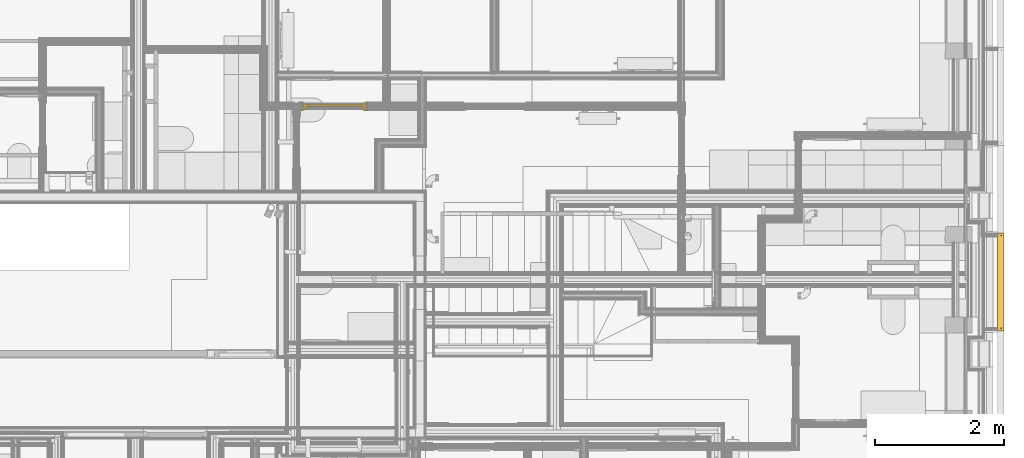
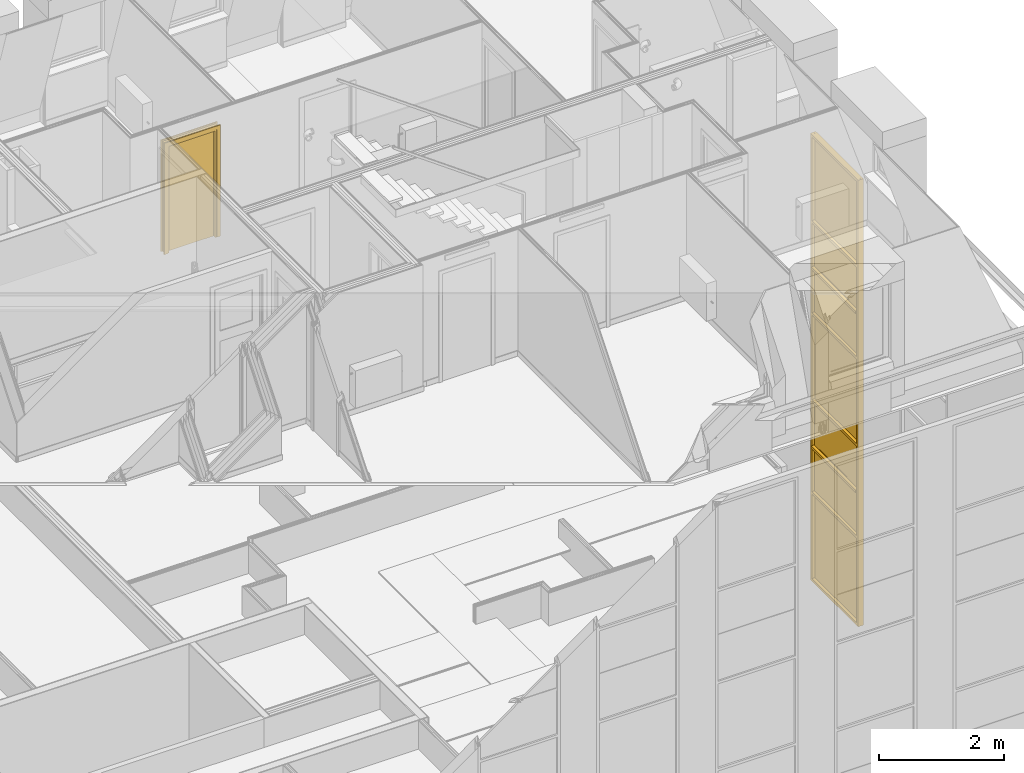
# One storey, part 131 of 169: 1 curtain wall, 1 door.
"""IFC2X3 building model written with IfcOpenShell, lengths in metres."""

from ifc_helpers import new_model, entity, si_unit, converted_unit, derived_unit, money_unit, direction, frame, origin_with_axes, place, context, subcontext, project, spatial, faceted_brep, material, type_object, element, save


model = new_model("IFC2X3")

# Units and contexts
model_context = context("Model", 3, precision=1e-05, world=origin_with_axes(), true_north=direction((0.0, 1.0)))
body_context = subcontext(model_context, "Body", "Model", "MODEL_VIEW", scale=1.0)
ifc_project = project(units=[si_unit("LENGTHUNIT", "METRE"), si_unit("AREAUNIT", "SQUARE_METRE"), si_unit("VOLUMEUNIT", "CUBIC_METRE"), si_unit("ABSORBEDDOSEUNIT", "GRAY"), si_unit("AMOUNTOFSUBSTANCEUNIT", "MOLE"), si_unit("DOSEEQUIVALENTUNIT", "SIEVERT"), si_unit("ELECTRICCAPACITANCEUNIT", "FARAD"), si_unit("ELECTRICCHARGEUNIT", "COULOMB"), si_unit("ELECTRICCONDUCTANCEUNIT", "SIEMENS"), si_unit("ELECTRICCURRENTUNIT", "AMPERE"), si_unit("ELECTRICRESISTANCEUNIT", "OHM"), si_unit("ELECTRICVOLTAGEUNIT", "VOLT"), si_unit("ENERGYUNIT", "JOULE"), si_unit("FORCEUNIT", "NEWTON"), si_unit("FREQUENCYUNIT", "HERTZ"), si_unit("ILLUMINANCEUNIT", "LUX"), si_unit("INDUCTANCEUNIT", "HENRY"), si_unit("LUMINOUSFLUXUNIT", "LUMEN"), si_unit("LUMINOUSINTENSITYUNIT", "CANDELA"), si_unit("MAGNETICFLUXDENSITYUNIT", "TESLA"), si_unit("MAGNETICFLUXUNIT", "WEBER"), si_unit("MASSUNIT", "GRAM"), converted_unit("PLANEANGLEUNIT", "degree", entity("IfcReal", 0.0174532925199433), si_unit("PLANEANGLEUNIT", "RADIAN"), dimensions=[0, 0, 0, 0, 0, 0, 0]), si_unit("POWERUNIT", "WATT"), si_unit("PRESSUREUNIT", "PASCAL"), si_unit("RADIOACTIVITYUNIT", "BECQUEREL"), si_unit("SOLIDANGLEUNIT", "STERADIAN"), si_unit("THERMODYNAMICTEMPERATUREUNIT", "KELVIN"), si_unit("TIMEUNIT", "SECOND"), derived_unit("ACCELERATIONUNIT", [(si_unit("LENGTHUNIT", "METRE"), 1), (si_unit("TIMEUNIT", "SECOND"), -2)]), derived_unit("ANGULARVELOCITYUNIT", [(converted_unit("PLANEANGLEUNIT", "degree", entity("IfcReal", 0.0174532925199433), si_unit("PLANEANGLEUNIT", "RADIAN"), dimensions=[0, 0, 0, 0, 0, 0, 0]), 1), (si_unit("TIMEUNIT", "SECOND"), -1)]), derived_unit("CURVATUREUNIT", [(converted_unit("PLANEANGLEUNIT", "degree", entity("IfcReal", 0.0174532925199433), si_unit("PLANEANGLEUNIT", "RADIAN"), dimensions=[0, 0, 0, 0, 0, 0, 0]), 1), (si_unit("LENGTHUNIT", "METRE"), -1)]), derived_unit("DYNAMICVISCOSITYUNIT", [(si_unit("PRESSUREUNIT", "PASCAL"), 1), (si_unit("TIMEUNIT", "SECOND"), 1)]), derived_unit("HEATFLUXDENSITYUNIT", [(si_unit("POWERUNIT", "WATT"), 1), (si_unit("LENGTHUNIT", "METRE"), -2)]), derived_unit("HEATINGVALUEUNIT", [(si_unit("ENERGYUNIT", "JOULE"), 1), (si_unit("MASSUNIT", "GRAM"), -1)]), derived_unit("INTEGERCOUNTRATEUNIT", [(si_unit("TIMEUNIT", "SECOND"), -1)]), derived_unit("IONCONCENTRATIONUNIT", [(si_unit("MASSUNIT", "GRAM"), 1), (si_unit("VOLUMEUNIT", "CUBIC_METRE"), -1)]), derived_unit("ISOTHERMALMOISTURECAPACITYUNIT", [(si_unit("VOLUMEUNIT", "CUBIC_METRE"), 1), (si_unit("MASSUNIT", "GRAM"), -1)]), derived_unit("KINEMATICVISCOSITYUNIT", [(si_unit("AREAUNIT", "SQUARE_METRE"), 1), (si_unit("TIMEUNIT", "SECOND"), -1)]), derived_unit("LINEARFORCEUNIT", [(si_unit("FORCEUNIT", "NEWTON"), 1), (si_unit("LENGTHUNIT", "METRE"), -1)]), derived_unit("LINEARMOMENTUNIT", [(si_unit("FORCEUNIT", "NEWTON"), 1), (si_unit("LENGTHUNIT", "METRE"), -1)]), derived_unit("LINEARSTIFFNESSUNIT", [(si_unit("FORCEUNIT", "NEWTON"), 1), (si_unit("LENGTHUNIT", "METRE"), -1)]), derived_unit("LINEARVELOCITYUNIT", [(si_unit("LENGTHUNIT", "METRE"), 1), (si_unit("TIMEUNIT", "SECOND"), -1)]), derived_unit("LUMINOUSINTENSITYDISTRIBUTIONUNIT", [(si_unit("LUMINOUSINTENSITYUNIT", "CANDELA"), 1), (si_unit("LUMINOUSFLUXUNIT", "LUMEN"), -1)]), derived_unit("MASSDENSITYUNIT", [(si_unit("MASSUNIT", "GRAM"), 1), (si_unit("VOLUMEUNIT", "CUBIC_METRE"), -1)]), derived_unit("MASSFLOWRATEUNIT", [(si_unit("MASSUNIT", "GRAM"), 1), (si_unit("TIMEUNIT", "SECOND"), -1)]), derived_unit("MASSPERLENGTHUNIT", [(si_unit("MASSUNIT", "GRAM"), 1), (si_unit("LENGTHUNIT", "METRE"), -1)]), derived_unit("MODULUSOFELASTICITYUNIT", [(si_unit("FORCEUNIT", "NEWTON"), 1), (si_unit("AREAUNIT", "SQUARE_METRE"), -1)]), derived_unit("MODULUSOFLINEARSUBGRADEREACTIONUNIT", [(si_unit("FORCEUNIT", "NEWTON"), 1), (si_unit("LENGTHUNIT", "METRE"), -2)]), derived_unit("MODULUSOFROTATIONALSUBGRADEREACTIONUNIT", [(si_unit("FORCEUNIT", "NEWTON"), 1), (si_unit("LENGTHUNIT", "METRE"), 1)]), derived_unit("MODULUSOFSUBGRADEREACTIONUNIT", [(si_unit("FORCEUNIT", "NEWTON"), 1), (si_unit("VOLUMEUNIT", "CUBIC_METRE"), -1)]), derived_unit("MOISTUREDIFFUSIVITYUNIT", [(si_unit("VOLUMEUNIT", "CUBIC_METRE"), 1), (si_unit("TIMEUNIT", "SECOND"), -1)]), derived_unit("MOLECULARWEIGHTUNIT", [(si_unit("MASSUNIT", "GRAM"), 1), (si_unit("AMOUNTOFSUBSTANCEUNIT", "MOLE"), -1)]), derived_unit("PLANARFORCEUNIT", [(si_unit("FORCEUNIT", "NEWTON"), 1), (si_unit("LENGTHUNIT", "METRE"), -2)]), derived_unit("ROTATIONALFREQUENCYUNIT", [(si_unit("TIMEUNIT", "SECOND"), -1)]), derived_unit("ROTATIONALMASSUNIT", [(si_unit("MASSUNIT", "GRAM"), 1), (si_unit("LENGTHUNIT", "METRE"), 2)]), derived_unit("ROTATIONALSTIFFNESSUNIT", [(si_unit("FORCEUNIT", "NEWTON"), 1), (si_unit("LENGTHUNIT", "METRE"), 1), (converted_unit("PLANEANGLEUNIT", "degree", entity("IfcReal", 0.0174532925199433), si_unit("PLANEANGLEUNIT", "RADIAN"), dimensions=[0, 0, 0, 0, 0, 0, 0]), -1)]), derived_unit("SECTIONAREAINTEGRALUNIT", [(si_unit("LENGTHUNIT", "METRE"), 5)]), derived_unit("SECTIONMODULUSUNIT", [(si_unit("LENGTHUNIT", "METRE"), 3)]), derived_unit("SHEARMODULUSUNIT", [(si_unit("FORCEUNIT", "NEWTON"), 1), (si_unit("AREAUNIT", "SQUARE_METRE"), -1)]), derived_unit("SOUNDPOWERUNIT", [(si_unit("ENERGYUNIT", "JOULE"), 1), (si_unit("TIMEUNIT", "SECOND"), -1)]), derived_unit("SPECIFICHEATCAPACITYUNIT", [(si_unit("FORCEUNIT", "NEWTON"), 1), (si_unit("MASSUNIT", "GRAM"), -1), (si_unit("THERMODYNAMICTEMPERATUREUNIT", "KELVIN"), -1)]), derived_unit("TEMPERATUREGRADIENTUNIT", [(si_unit("THERMODYNAMICTEMPERATUREUNIT", "KELVIN"), 1), (si_unit("LENGTHUNIT", "METRE"), -1)]), derived_unit("THERMALADMITTANCEUNIT", [(si_unit("POWERUNIT", "WATT"), 1), (si_unit("AREAUNIT", "SQUARE_METRE"), -1), (si_unit("THERMODYNAMICTEMPERATUREUNIT", "KELVIN"), -1)]), derived_unit("THERMALCONDUCTANCEUNIT", [(si_unit("POWERUNIT", "WATT"), 1), (si_unit("LENGTHUNIT", "METRE"), -1), (si_unit("THERMODYNAMICTEMPERATUREUNIT", "KELVIN"), -1)]), derived_unit("THERMALEXPANSIONCOEFFICIENTUNIT", [(si_unit("THERMODYNAMICTEMPERATUREUNIT", "KELVIN"), -1)]), derived_unit("THERMALRESISTANCEUNIT", [(si_unit("AREAUNIT", "SQUARE_METRE"), 1), (si_unit("POWERUNIT", "WATT"), -1)]), derived_unit("THERMALTRANSMITTANCEUNIT", [(si_unit("POWERUNIT", "WATT"), 1), (si_unit("AREAUNIT", "SQUARE_METRE"), -1), (si_unit("THERMODYNAMICTEMPERATUREUNIT", "KELVIN"), -1)]), derived_unit("TORQUEUNIT", [(si_unit("FORCEUNIT", "NEWTON"), 1), (si_unit("LENGTHUNIT", "METRE"), 1)]), derived_unit("VAPORPERMEABILITYUNIT", [(si_unit("MASSUNIT", "GRAM"), 1), (si_unit("TIMEUNIT", "SECOND"), -1)]), derived_unit("VOLUMETRICFLOWRATEUNIT", [(si_unit("VOLUMEUNIT", "CUBIC_METRE"), 1), (si_unit("TIMEUNIT", "SECOND"), -1)]), derived_unit("WARPINGCONSTANTUNIT", [(si_unit("LENGTHUNIT", "METRE"), 6)]), derived_unit("WARPINGMOMENTUNIT", [(si_unit("FORCEUNIT", "NEWTON"), 1), (si_unit("LENGTHUNIT", "METRE"), 2)]), money_unit("GBP")], contexts=[model_context])

# Site, building, storey
site_placement = place(None, origin_with_axes())
site = spatial("IfcSite", under=ifc_project, at=site_placement, Name="Site", CompositionType="ELEMENT")
building_placement = place(site_placement, origin_with_axes())
building = spatial("IfcBuilding", under=site, at=building_placement, Name="Building01", CompositionType="ELEMENT")
storey_placement = place(building_placement, frame((0.0, 0.0, 5.15), z_axis=(0.0, 0.0, 1.0), x_axis=(1.0, 0.0, 0.0)))
storey = spatial("IfcBuildingStorey", under=building, at=storey_placement, Name="1F", CompositionType="ELEMENT", Elevation=5.15)

# Curtain wall
ifc_material_1 = material(Name="A-CurtainWall_Frame")
curtain_wall_type = type_object("IfcCurtainWallType", Name="Pattern - Maximum Spacing", PredefinedType="NOTDEFINED")
curtain_wall_placement = place(storey_placement, frame((0.0, 0.0, -5.15), z_axis=(0.0, 0.0, 1.0), x_axis=(1.0, 0.0, 0.0)))
element("IfcCurtainWall", 1, at=curtain_wall_placement, inside=storey, type_object=curtain_wall_type, material=ifc_material_1, Name="29", ObjectType="Pattern - Maximum Spacing", context=body_context, shape_type="Brep", body=[
    faceted_brep([(26.935, 6.687326, 6.050108), (26.945, 6.687326, 6.050108), (26.945, 6.687326, 7.734233), (26.935, 6.687326, 7.734233), (26.935, 8.147326, 6.050108), (26.945, 8.147326, 6.050108), (26.935, 8.147326, 7.734233), (26.945, 8.147326, 7.734233)], [[[0, 1, 2, 3]], [[4, 5, 1, 0]], [[6, 7, 5, 4]], [[3, 2, 7, 6]], [[1, 5, 7, 2]], [[3, 6, 4, 0]]]),
    faceted_brep([(26.935, 6.687326, 6.020108), (26.945, 6.687326, 6.020108), (26.945, 6.707326, 6.020108), (26.98, 6.707326, 6.020108), (26.98, 6.657326, 6.020108), (26.88, 6.657326, 6.020108), (26.88, 6.707326, 6.020108), (26.935, 6.707326, 6.020108), (26.935, 6.707326, 7.739233), (26.935, 6.687326, 7.739233), (26.945, 6.687326, 7.739233), (26.945, 6.707326, 7.739233), (26.98, 6.707326, 7.739233), (26.98, 6.657326, 7.739233), (26.88, 6.657326, 7.739233), (26.88, 6.707326, 7.739233)], [[[0, 1, 2, 3, 4, 5, 6, 7]], [[7, 8, 9, 0]], [[0, 9, 10, 1]], [[1, 10, 11, 2]], [[2, 11, 12, 3]], [[3, 12, 13, 4]], [[4, 13, 14, 5]], [[5, 14, 15, 6]], [[6, 15, 8, 7]]]),
    faceted_brep([(26.935, 8.127326, 6.050108), (26.945, 8.127326, 6.050108), (26.945, 8.127326, 6.070108), (26.98, 8.127326, 6.070108), (26.98, 8.127326, 6.020108), (26.88, 8.127326, 6.020108), (26.88, 8.127326, 6.070108), (26.935, 8.127326, 6.070108), (26.935, 6.707326, 6.070108), (26.935, 6.707326, 6.050108), (26.945, 6.707326, 6.050108), (26.945, 6.707326, 6.070108), (26.98, 6.707326, 6.070108), (26.98, 6.707326, 6.020108), (26.88, 6.707326, 6.020108), (26.88, 6.707326, 6.070108)], [[[0, 1, 2, 3, 4, 5, 6, 7]], [[7, 8, 9, 0]], [[0, 9, 10, 1]], [[1, 10, 11, 2]], [[2, 11, 12, 3]], [[3, 12, 13, 4]], [[4, 13, 14, 5]], [[5, 14, 15, 6]], [[6, 15, 8, 7]], [[8, 15, 14, 13, 12, 11, 10, 9]]]),
    faceted_brep([(26.88, 8.127326, 6.020108), (26.88, 8.127326, 7.739233), (26.88, 8.177326, 7.739233), (26.88, 8.177326, 6.020108), (26.935, 8.127326, 6.020108), (26.935, 8.127326, 7.739233), (26.935, 8.147326, 6.020108), (26.935, 8.147326, 7.739233), (26.945, 8.147326, 6.020108), (26.945, 8.147326, 7.739233), (26.945, 8.127326, 6.020108), (26.945, 8.127326, 7.739233), (26.98, 8.127326, 6.020108), (26.98, 8.127326, 7.739233), (26.98, 8.177326, 6.020108), (26.98, 8.177326, 7.739233)], [[[0, 1, 2, 3]], [[4, 5, 1, 0]], [[6, 7, 5, 4]], [[8, 9, 7, 6]], [[10, 11, 9, 8]], [[12, 13, 11, 10]], [[14, 15, 13, 12]], [[3, 2, 15, 14]], [[14, 12, 10, 8, 6, 4, 0, 3]]]),
    faceted_brep([(26.935, 6.707326, 7.734233), (26.945, 6.707326, 7.734233), (26.945, 6.707326, 7.714233), (26.98, 6.707326, 7.714233), (26.98, 6.707326, 7.764233), (26.945, 6.707326, 7.764233), (26.945, 6.707326, 7.744233), (26.935, 6.707326, 7.744233), (26.935, 6.707326, 7.764233), (26.88, 6.707326, 7.764233), (26.88, 6.707326, 7.714233), (26.935, 6.707326, 7.714233), (26.935, 8.127326, 7.714233), (26.935, 8.127326, 7.734233), (26.945, 8.127326, 7.734233), (26.945, 8.127326, 7.714233), (26.98, 8.127326, 7.714233), (26.98, 8.127326, 7.764233), (26.945, 8.127326, 7.764233), (26.935, 8.127326, 7.744233), (26.935, 8.127326, 7.764233), (26.945, 8.127326, 7.744233), (26.88, 8.127326, 7.714233), (26.88, 8.127326, 7.764233)], [[[0, 1, 2, 3, 4, 5, 6, 7, 8, 9, 10, 11]], [[11, 12, 13, 0]], [[0, 13, 14, 1]], [[1, 14, 15, 2]], [[2, 15, 16, 3]], [[3, 16, 17, 4]], [[4, 17, 18, 5]], [[7, 19, 20, 8]], [[6, 21, 19, 7]], [[5, 18, 21, 6]], [[10, 22, 12, 11]], [[9, 23, 22, 10]], [[8, 20, 23, 9]], [[20, 19, 21, 18, 17, 16, 15, 14, 13, 12, 22, 23]]]),
    faceted_brep([(26.93, 6.687326, 7.744233), (26.95, 6.687326, 7.744233), (26.95, 6.687326, 8.631122), (26.93, 6.687326, 8.631122), (26.93, 8.147326, 7.744233), (26.95, 8.147326, 7.744233), (26.93, 8.147326, 8.631122), (26.95, 8.147326, 8.631122)], [[[0, 1, 2, 3]], [[4, 5, 1, 0]], [[6, 7, 5, 4]], [[3, 2, 7, 6]], [[1, 5, 7, 2]], [[3, 6, 4, 0]]]),
    faceted_brep([(26.88, 6.707326, 8.636122), (26.88, 6.707326, 7.739233), (26.88, 6.657326, 7.739233), (26.88, 6.657326, 8.636122), (26.935, 6.707326, 8.636122), (26.935, 6.707326, 7.739233), (26.935, 6.687326, 8.636122), (26.935, 6.687326, 7.739233), (26.945, 6.687326, 8.636122), (26.945, 6.687326, 7.739233), (26.945, 6.707326, 8.636122), (26.945, 6.707326, 7.739233), (26.98, 6.707326, 8.636122), (26.98, 6.707326, 7.739233), (26.98, 6.657326, 8.636122), (26.98, 6.657326, 7.739233)], [[[0, 1, 2, 3]], [[4, 5, 1, 0]], [[6, 7, 5, 4]], [[8, 9, 7, 6]], [[10, 11, 9, 8]], [[12, 13, 11, 10]], [[14, 15, 13, 12]], [[3, 2, 15, 14]]]),
    faceted_brep([(26.88, 8.127326, 7.739233), (26.88, 8.127326, 8.636122), (26.88, 8.177326, 8.636122), (26.88, 8.177326, 7.739233), (26.935, 8.127326, 7.739233), (26.935, 8.127326, 8.636122), (26.935, 8.147326, 7.739233), (26.935, 8.147326, 8.636122), (26.945, 8.147326, 7.739233), (26.945, 8.147326, 8.636122), (26.945, 8.127326, 7.739233), (26.945, 8.127326, 8.636122), (26.98, 8.127326, 7.739233), (26.98, 8.127326, 8.636122), (26.98, 8.177326, 7.739233), (26.98, 8.177326, 8.636122)], [[[0, 1, 2, 3]], [[4, 5, 1, 0]], [[6, 7, 5, 4]], [[8, 9, 7, 6]], [[10, 11, 9, 8]], [[12, 13, 11, 10]], [[14, 15, 13, 12]], [[3, 2, 15, 14]]]),
    faceted_brep([(26.9175, 6.707326, 8.631122), (26.9275, 6.707326, 8.631122), (26.9275, 6.707326, 8.611122), (26.9625, 6.707326, 8.611122), (26.9625, 6.707326, 8.661122), (26.9275, 6.707326, 8.661122), (26.9275, 6.707326, 8.641122), (26.9175, 6.707326, 8.641122), (26.9175, 6.707326, 8.661122), (26.8625, 6.707326, 8.661122), (26.8625, 6.707326, 8.611122), (26.9175, 6.707326, 8.611122), (26.9175, 8.127326, 8.611122), (26.9175, 8.127326, 8.631122), (26.9275, 8.127326, 8.631122), (26.9275, 8.127326, 8.611122), (26.9625, 8.127326, 8.611122), (26.9625, 8.127326, 8.661122), (26.9275, 8.127326, 8.661122), (26.9175, 8.127326, 8.641122), (26.9175, 8.127326, 8.661122), (26.9275, 8.127326, 8.641122), (26.8625, 8.127326, 8.611122), (26.8625, 8.127326, 8.661122)], [[[0, 1, 2, 3, 4, 5, 6, 7, 8, 9, 10, 11]], [[11, 12, 13, 0]], [[0, 13, 14, 1]], [[1, 14, 15, 2]], [[2, 15, 16, 3]], [[3, 16, 17, 4]], [[4, 17, 18, 5]], [[7, 19, 20, 8]], [[6, 21, 19, 7]], [[5, 18, 21, 6]], [[10, 22, 12, 11]], [[9, 23, 22, 10]], [[8, 20, 23, 9]], [[20, 19, 21, 18, 17, 16, 15, 14, 13, 12, 22, 23]]]),
    faceted_brep([(26.93, 6.687326, 8.641122), (26.95, 6.687326, 8.641122), (26.95, 6.687326, 9.528011), (26.93, 6.687326, 9.528011), (26.93, 8.147326, 8.641122), (26.95, 8.147326, 8.641122), (26.93, 8.147326, 9.528011), (26.95, 8.147326, 9.528011)], [[[0, 1, 2, 3]], [[4, 5, 1, 0]], [[6, 7, 5, 4]], [[3, 2, 7, 6]], [[1, 5, 7, 2]], [[3, 6, 4, 0]]]),
    faceted_brep([(26.88, 6.707326, 9.533011), (26.88, 6.707326, 8.636122), (26.88, 6.657326, 8.636122), (26.88, 6.657326, 9.533011), (26.935, 6.707326, 9.533011), (26.935, 6.707326, 8.636122), (26.935, 6.687326, 9.533011), (26.935, 6.687326, 8.636122), (26.945, 6.687326, 9.533011), (26.945, 6.687326, 8.636122), (26.945, 6.707326, 9.533011), (26.945, 6.707326, 8.636122), (26.98, 6.707326, 9.533011), (26.98, 6.707326, 8.636122), (26.98, 6.657326, 9.533011), (26.98, 6.657326, 8.636122)], [[[0, 1, 2, 3]], [[4, 5, 1, 0]], [[6, 7, 5, 4]], [[8, 9, 7, 6]], [[10, 11, 9, 8]], [[12, 13, 11, 10]], [[14, 15, 13, 12]], [[3, 2, 15, 14]]]),
    faceted_brep([(26.88, 8.127326, 8.636122), (26.88, 8.127326, 9.533011), (26.88, 8.177326, 9.533011), (26.88, 8.177326, 8.636122), (26.935, 8.127326, 8.636122), (26.935, 8.127326, 9.533011), (26.935, 8.147326, 8.636122), (26.935, 8.147326, 9.533011), (26.945, 8.147326, 8.636122), (26.945, 8.147326, 9.533011), (26.945, 8.127326, 8.636122), (26.945, 8.127326, 9.533011), (26.98, 8.127326, 8.636122), (26.98, 8.127326, 9.533011), (26.98, 8.177326, 8.636122), (26.98, 8.177326, 9.533011)], [[[0, 1, 2, 3]], [[4, 5, 1, 0]], [[6, 7, 5, 4]], [[8, 9, 7, 6]], [[10, 11, 9, 8]], [[12, 13, 11, 10]], [[14, 15, 13, 12]], [[3, 2, 15, 14]]]),
    faceted_brep([(26.935, 6.707326, 9.528011), (26.945, 6.707326, 9.528011), (26.945, 6.707326, 9.508011), (26.98, 6.707326, 9.508011), (26.98, 6.707326, 9.558011), (26.945, 6.707326, 9.558011), (26.945, 6.707326, 9.538011), (26.935, 6.707326, 9.538011), (26.935, 6.707326, 9.558011), (26.88, 6.707326, 9.558011), (26.88, 6.707326, 9.508011), (26.935, 6.707326, 9.508011), (26.935, 8.127326, 9.508011), (26.935, 8.127326, 9.528011), (26.945, 8.127326, 9.528011), (26.945, 8.127326, 9.508011), (26.98, 8.127326, 9.508011), (26.98, 8.127326, 9.558011), (26.945, 8.127326, 9.558011), (26.935, 8.127326, 9.538011), (26.935, 8.127326, 9.558011), (26.945, 8.127326, 9.538011), (26.88, 8.127326, 9.508011), (26.88, 8.127326, 9.558011)], [[[0, 1, 2, 3, 4, 5, 6, 7, 8, 9, 10, 11]], [[11, 12, 13, 0]], [[0, 13, 14, 1]], [[1, 14, 15, 2]], [[2, 15, 16, 3]], [[3, 16, 17, 4]], [[4, 17, 18, 5]], [[7, 19, 20, 8]], [[6, 21, 19, 7]], [[5, 18, 21, 6]], [[10, 22, 12, 11]], [[9, 23, 22, 10]], [[8, 20, 23, 9]], [[20, 19, 21, 18, 17, 16, 15, 14, 13, 12, 22, 23]]]),
    faceted_brep([(26.935, 6.687326, 9.538011), (26.945, 6.687326, 9.538011), (26.945, 6.687326, 11.222136), (26.935, 6.687326, 11.222136), (26.935, 8.147326, 9.538011), (26.945, 8.147326, 9.538011), (26.935, 8.147326, 11.222136), (26.945, 8.147326, 11.222136)], [[[0, 1, 2, 3]], [[4, 5, 1, 0]], [[6, 7, 5, 4]], [[3, 2, 7, 6]], [[1, 5, 7, 2]], [[3, 6, 4, 0]]]),
    faceted_brep([(26.88, 6.707326, 11.227136), (26.88, 6.707326, 9.533011), (26.88, 6.657326, 9.533011), (26.88, 6.657326, 11.227136), (26.935, 6.707326, 11.227136), (26.935, 6.707326, 9.533011), (26.935, 6.687326, 11.227136), (26.935, 6.687326, 9.533011), (26.945, 6.687326, 11.227136), (26.945, 6.687326, 9.533011), (26.945, 6.707326, 11.227136), (26.945, 6.707326, 9.533011), (26.98, 6.707326, 11.227136), (26.98, 6.707326, 9.533011), (26.98, 6.657326, 11.227136), (26.98, 6.657326, 9.533011)], [[[0, 1, 2, 3]], [[4, 5, 1, 0]], [[6, 7, 5, 4]], [[8, 9, 7, 6]], [[10, 11, 9, 8]], [[12, 13, 11, 10]], [[14, 15, 13, 12]], [[3, 2, 15, 14]]]),
    faceted_brep([(26.88, 8.127326, 9.533011), (26.88, 8.127326, 11.227136), (26.88, 8.177326, 11.227136), (26.88, 8.177326, 9.533011), (26.935, 8.127326, 9.533011), (26.935, 8.127326, 11.227136), (26.935, 8.147326, 9.533011), (26.935, 8.147326, 11.227136), (26.945, 8.147326, 9.533011), (26.945, 8.147326, 11.227136), (26.945, 8.127326, 9.533011), (26.945, 8.127326, 11.227136), (26.98, 8.127326, 9.533011), (26.98, 8.127326, 11.227136), (26.98, 8.177326, 9.533011), (26.98, 8.177326, 11.227136)], [[[0, 1, 2, 3]], [[4, 5, 1, 0]], [[6, 7, 5, 4]], [[8, 9, 7, 6]], [[10, 11, 9, 8]], [[12, 13, 11, 10]], [[14, 15, 13, 12]], [[3, 2, 15, 14]]]),
    faceted_brep([(26.935, 6.707326, 11.222136), (26.945, 6.707326, 11.222136), (26.945, 6.707326, 11.202136), (26.98, 6.707326, 11.202136), (26.98, 6.707326, 11.252136), (26.945, 6.707326, 11.252136), (26.945, 6.707326, 11.232136), (26.935, 6.707326, 11.232136), (26.935, 6.707326, 11.252136), (26.88, 6.707326, 11.252136), (26.88, 6.707326, 11.202136), (26.935, 6.707326, 11.202136), (26.935, 8.127326, 11.202136), (26.935, 8.127326, 11.222136), (26.945, 8.127326, 11.222136), (26.945, 8.127326, 11.202136), (26.98, 8.127326, 11.202136), (26.98, 8.127326, 11.252136), (26.945, 8.127326, 11.252136), (26.935, 8.127326, 11.232136), (26.935, 8.127326, 11.252136), (26.945, 8.127326, 11.232136), (26.88, 8.127326, 11.202136), (26.88, 8.127326, 11.252136)], [[[0, 1, 2, 3, 4, 5, 6, 7, 8, 9, 10, 11]], [[11, 12, 13, 0]], [[0, 13, 14, 1]], [[1, 14, 15, 2]], [[2, 15, 16, 3]], [[3, 16, 17, 4]], [[4, 17, 18, 5]], [[7, 19, 20, 8]], [[6, 21, 19, 7]], [[5, 18, 21, 6]], [[10, 22, 12, 11]], [[9, 23, 22, 10]], [[8, 20, 23, 9]], [[20, 19, 21, 18, 17, 16, 15, 14, 13, 12, 22, 23]]]),
    faceted_brep([(26.93, 6.687326, 11.232136), (26.95, 6.687326, 11.232136), (26.95, 6.687326, 12.119025), (26.93, 6.687326, 12.119025), (26.93, 8.147326, 11.232136), (26.95, 8.147326, 11.232136), (26.93, 8.147326, 12.119025), (26.95, 8.147326, 12.119025)], [[[0, 1, 2, 3]], [[4, 5, 1, 0]], [[6, 7, 5, 4]], [[3, 2, 7, 6]], [[1, 5, 7, 2]], [[3, 6, 4, 0]]]),
    faceted_brep([(26.88, 6.707326, 12.124025), (26.88, 6.707326, 11.227136), (26.88, 6.657326, 11.227136), (26.88, 6.657326, 12.124025), (26.935, 6.707326, 12.124025), (26.935, 6.707326, 11.227136), (26.935, 6.687326, 12.124025), (26.935, 6.687326, 11.227136), (26.945, 6.687326, 12.124025), (26.945, 6.687326, 11.227136), (26.945, 6.707326, 12.124025), (26.945, 6.707326, 11.227136), (26.98, 6.707326, 12.124025), (26.98, 6.707326, 11.227136), (26.98, 6.657326, 12.124025), (26.98, 6.657326, 11.227136)], [[[0, 1, 2, 3]], [[4, 5, 1, 0]], [[6, 7, 5, 4]], [[8, 9, 7, 6]], [[10, 11, 9, 8]], [[12, 13, 11, 10]], [[14, 15, 13, 12]], [[3, 2, 15, 14]]]),
    faceted_brep([(26.88, 8.127326, 11.227136), (26.88, 8.127326, 12.124025), (26.88, 8.177326, 12.124025), (26.88, 8.177326, 11.227136), (26.935, 8.127326, 11.227136), (26.935, 8.127326, 12.124025), (26.935, 8.147326, 11.227136), (26.935, 8.147326, 12.124025), (26.945, 8.147326, 11.227136), (26.945, 8.147326, 12.124025), (26.945, 8.127326, 11.227136), (26.945, 8.127326, 12.124025), (26.98, 8.127326, 11.227136), (26.98, 8.127326, 12.124025), (26.98, 8.177326, 11.227136), (26.98, 8.177326, 12.124025)], [[[0, 1, 2, 3]], [[4, 5, 1, 0]], [[6, 7, 5, 4]], [[8, 9, 7, 6]], [[10, 11, 9, 8]], [[12, 13, 11, 10]], [[14, 15, 13, 12]], [[3, 2, 15, 14]]]),
    faceted_brep([(26.9175, 6.707326, 12.119025), (26.9275, 6.707326, 12.119025), (26.9275, 6.707326, 12.099025), (26.9625, 6.707326, 12.099025), (26.9625, 6.707326, 12.149025), (26.9275, 6.707326, 12.149025), (26.9275, 6.707326, 12.129025), (26.9175, 6.707326, 12.129025), (26.9175, 6.707326, 12.149025), (26.8625, 6.707326, 12.149025), (26.8625, 6.707326, 12.099025), (26.9175, 6.707326, 12.099025), (26.9175, 8.127326, 12.099025), (26.9175, 8.127326, 12.119025), (26.9275, 8.127326, 12.119025), (26.9275, 8.127326, 12.099025), (26.9625, 8.127326, 12.099025), (26.9625, 8.127326, 12.149025), (26.9275, 8.127326, 12.149025), (26.9175, 8.127326, 12.129025), (26.9175, 8.127326, 12.149025), (26.9275, 8.127326, 12.129025), (26.8625, 8.127326, 12.099025), (26.8625, 8.127326, 12.149025)], [[[0, 1, 2, 3, 4, 5, 6, 7, 8, 9, 10, 11]], [[11, 12, 13, 0]], [[0, 13, 14, 1]], [[1, 14, 15, 2]], [[2, 15, 16, 3]], [[3, 16, 17, 4]], [[4, 17, 18, 5]], [[7, 19, 20, 8]], [[6, 21, 19, 7]], [[5, 18, 21, 6]], [[10, 22, 12, 11]], [[9, 23, 22, 10]], [[8, 20, 23, 9]], [[20, 19, 21, 18, 17, 16, 15, 14, 13, 12, 22, 23]]]),
    faceted_brep([(26.935, 8.147326, 14.690108), (26.945, 8.147326, 14.690108), (26.945, 8.147326, 13.025915), (26.935, 8.147326, 13.025915), (26.935, 6.687326, 14.690108), (26.945, 6.687326, 14.690108), (26.935, 6.687326, 13.025915), (26.945, 6.687326, 13.025915)], [[[0, 1, 2, 3]], [[4, 5, 1, 0]], [[6, 7, 5, 4]], [[3, 2, 7, 6]], [[1, 5, 7, 2]], [[3, 6, 4, 0]]]),
    faceted_brep([(26.88, 8.127326, 14.720108), (26.935, 8.127326, 14.720108), (26.935, 8.147326, 14.720108), (26.945, 8.147326, 14.720108), (26.945, 8.127326, 14.720108), (26.98, 8.127326, 14.720108), (26.98, 8.177326, 14.720108), (26.88, 8.177326, 14.720108), (26.88, 8.177326, 13.020915), (26.88, 8.127326, 13.020915), (26.935, 8.127326, 13.020915), (26.935, 8.147326, 13.020915), (26.945, 8.147326, 13.020915), (26.945, 8.127326, 13.020915), (26.98, 8.127326, 13.020915), (26.98, 8.177326, 13.020915)], [[[0, 1, 2, 3, 4, 5, 6, 7]], [[7, 8, 9, 0]], [[0, 9, 10, 1]], [[1, 10, 11, 2]], [[2, 11, 12, 3]], [[3, 12, 13, 4]], [[4, 13, 14, 5]], [[5, 14, 15, 6]], [[6, 15, 8, 7]]]),
    faceted_brep([(26.88, 6.707326, 14.670108), (26.935, 6.707326, 14.670108), (26.935, 6.707326, 14.690108), (26.945, 6.707326, 14.690108), (26.945, 6.707326, 14.670108), (26.98, 6.707326, 14.670108), (26.98, 6.707326, 14.720108), (26.88, 6.707326, 14.720108), (26.88, 8.127326, 14.720108), (26.88, 8.127326, 14.670108), (26.935, 8.127326, 14.670108), (26.935, 8.127326, 14.690108), (26.945, 8.127326, 14.690108), (26.945, 8.127326, 14.670108), (26.98, 8.127326, 14.670108), (26.98, 8.127326, 14.720108)], [[[0, 1, 2, 3, 4, 5, 6, 7]], [[7, 8, 9, 0]], [[0, 9, 10, 1]], [[1, 10, 11, 2]], [[2, 11, 12, 3]], [[3, 12, 13, 4]], [[4, 13, 14, 5]], [[5, 14, 15, 6]], [[6, 15, 8, 7]], [[8, 15, 14, 13, 12, 11, 10, 9]]]),
    faceted_brep([(26.935, 6.687326, 14.720108), (26.935, 6.687326, 13.020915), (26.935, 6.707326, 13.020915), (26.935, 6.707326, 14.720108), (26.945, 6.687326, 14.720108), (26.945, 6.687326, 13.020915), (26.945, 6.707326, 14.720108), (26.945, 6.707326, 13.020915), (26.98, 6.707326, 14.720108), (26.98, 6.707326, 13.020915), (26.98, 6.657326, 14.720108), (26.98, 6.657326, 13.020915), (26.88, 6.657326, 14.720108), (26.88, 6.657326, 13.020915), (26.88, 6.707326, 14.720108), (26.88, 6.707326, 13.020915)], [[[0, 1, 2, 3]], [[4, 5, 1, 0]], [[6, 7, 5, 4]], [[8, 9, 7, 6]], [[10, 11, 9, 8]], [[12, 13, 11, 10]], [[14, 15, 13, 12]], [[3, 2, 15, 14]], [[14, 12, 10, 8, 6, 4, 0, 3]]]),
    faceted_brep([(26.945, 8.127326, 13.015915), (26.935, 8.127326, 13.015915), (26.935, 8.127326, 12.995915), (26.88, 8.127326, 12.995915), (26.88, 8.127326, 13.045915), (26.935, 8.127326, 13.045915), (26.935, 8.127326, 13.025915), (26.945, 8.127326, 13.025915), (26.945, 8.127326, 13.045915), (26.98, 8.127326, 13.045915), (26.98, 8.127326, 12.995915), (26.945, 8.127326, 12.995915), (26.945, 6.707326, 12.995915), (26.945, 6.707326, 13.015915), (26.935, 6.707326, 13.015915), (26.935, 6.707326, 12.995915), (26.88, 6.707326, 12.995915), (26.88, 6.707326, 13.045915), (26.935, 6.707326, 13.045915), (26.945, 6.707326, 13.025915), (26.945, 6.707326, 13.045915), (26.935, 6.707326, 13.025915), (26.98, 6.707326, 12.995915), (26.98, 6.707326, 13.045915)], [[[0, 1, 2, 3, 4, 5, 6, 7, 8, 9, 10, 11]], [[11, 12, 13, 0]], [[0, 13, 14, 1]], [[1, 14, 15, 2]], [[2, 15, 16, 3]], [[3, 16, 17, 4]], [[4, 17, 18, 5]], [[7, 19, 20, 8]], [[6, 21, 19, 7]], [[5, 18, 21, 6]], [[10, 22, 12, 11]], [[9, 23, 22, 10]], [[8, 20, 23, 9]], [[20, 19, 21, 18, 17, 16, 15, 14, 13, 12, 22, 23]]]),
    faceted_brep([(26.93, 6.687326, 12.129025), (26.95, 6.687326, 12.129025), (26.95, 6.687326, 13.015915), (26.93, 6.687326, 13.015915), (26.93, 8.147326, 12.129025), (26.95, 8.147326, 12.129025), (26.93, 8.147326, 13.015915), (26.95, 8.147326, 13.015915)], [[[0, 1, 2, 3]], [[4, 5, 1, 0]], [[6, 7, 5, 4]], [[3, 2, 7, 6]], [[1, 5, 7, 2]], [[3, 6, 4, 0]]]),
    faceted_brep([(26.88, 6.707326, 13.020915), (26.88, 6.707326, 12.124025), (26.88, 6.657326, 12.124025), (26.88, 6.657326, 13.020915), (26.935, 6.707326, 13.020915), (26.935, 6.707326, 12.124025), (26.935, 6.687326, 13.020915), (26.935, 6.687326, 12.124025), (26.945, 6.687326, 13.020915), (26.945, 6.687326, 12.124025), (26.945, 6.707326, 13.020915), (26.945, 6.707326, 12.124025), (26.98, 6.707326, 13.020915), (26.98, 6.707326, 12.124025), (26.98, 6.657326, 13.020915), (26.98, 6.657326, 12.124025)], [[[0, 1, 2, 3]], [[4, 5, 1, 0]], [[6, 7, 5, 4]], [[8, 9, 7, 6]], [[10, 11, 9, 8]], [[12, 13, 11, 10]], [[14, 15, 13, 12]], [[3, 2, 15, 14]]]),
    faceted_brep([(26.88, 8.127326, 12.124025), (26.88, 8.127326, 13.020915), (26.88, 8.177326, 13.020915), (26.88, 8.177326, 12.124025), (26.935, 8.127326, 12.124025), (26.935, 8.127326, 13.020915), (26.935, 8.147326, 12.124025), (26.935, 8.147326, 13.020915), (26.945, 8.147326, 12.124025), (26.945, 8.147326, 13.020915), (26.945, 8.127326, 12.124025), (26.945, 8.127326, 13.020915), (26.98, 8.127326, 12.124025), (26.98, 8.127326, 13.020915), (26.98, 8.177326, 12.124025), (26.98, 8.177326, 13.020915)], [[[0, 1, 2, 3]], [[4, 5, 1, 0]], [[6, 7, 5, 4]], [[8, 9, 7, 6]], [[10, 11, 9, 8]], [[12, 13, 11, 10]], [[14, 15, 13, 12]], [[3, 2, 15, 14]]]),
])

# Space
space_placement = place(storey_placement, frame((16.03844, 8.82, 9.86), z_axis=(0.0, 0.0, 1.0), x_axis=(0.0, -1.0, 0.0)))
space = spatial("IfcSpace", under=storey, at=space_placement, Name="23", CompositionType="ELEMENT", InteriorOrExteriorSpace="NOTDEFINED")

# Door
ifc_material_2 = material(Name="A_BSUK_Doors")
door_style = type_object("IfcDoorStyle", Name="A-Doors-SingleFlush", ConstructionType="USERDEFINED", OperationType="SINGLE_SWING_RIGHT", ParameterTakesPrecedence=False, Sizeable=False)
door_placement = place(storey_placement, frame((16.13844, 10.179939, 9.83), z_axis=(0.0, 0.0, 1.0), x_axis=(1.0, 0.0, 0.0)))
element("IfcDoor", 2, at=door_placement, inside=space, type_object=door_style, material=ifc_material_2, Name="4.06", ObjectType="A-Doors-SingleFlush", OverallHeight=2.16900000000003, OverallWidth=1.03800000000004, context=body_context, shape_type="Brep", body=[
    faceted_brep([(0.9, -0.099, 0.0), (0.969, -0.099, 0.0), (0.969, -0.099, 2.169), (-0.069, -0.099, 2.169), (-0.069, -0.099, 0.0), (0.0, -0.099, 0.0), (0.0, -0.099, 2.1), (0.9, -0.099, 2.1), (-0.069, -0.08, 0.0), (-0.069, -0.08, 2.169), (0.969, -0.08, 2.169), (0.969, -0.08, 0.0), (0.9, 0.019, 0.0), (0.969, 0.019, 0.0), (0.969, 0.0, 0.0), (0.942, 0.0, 0.0), (0.942, -0.08, 0.0), (0.9, 0.019, 2.1), (0.0, 0.019, 2.1), (0.0, 0.019, 0.0), (-0.069, 0.019, 0.0), (-0.069, 0.019, 2.169), (0.969, 0.019, 2.169), (0.969, 0.0, 2.169), (0.942, -0.08, 2.142), (0.942, 0.0, 2.142), (-0.042, -0.08, 2.142), (-0.042, 0.0, 2.142), (-0.042, -0.08, 0.0), (-0.042, 0.0, 0.0), (-0.069, 0.0, 2.169), (-0.069, 0.0, 0.0)], [[[0, 1, 2, 3, 4, 5, 6, 7]], [[8, 4, 3, 9]], [[10, 2, 1, 11]], [[9, 3, 2, 10]], [[12, 13, 14, 15, 16, 11, 1, 0]], [[7, 17, 12, 0]], [[6, 18, 17, 7]], [[18, 19, 20, 21, 22, 13, 12, 17]], [[5, 19, 18, 6]], [[13, 22, 23, 14]], [[24, 16, 15, 25]], [[26, 24, 25, 27]], [[11, 16, 24, 26, 28, 8, 9, 10]], [[27, 29, 28, 26]], [[25, 15, 14, 23, 30, 31, 29, 27]], [[5, 4, 8, 28, 29, 31, 20, 19]], [[30, 21, 20, 31]], [[23, 22, 21, 30]]]),
    faceted_brep([(0.0, -0.09, 2.1), (0.0, -0.04, 2.1), (0.0, -0.04, 0.0), (0.0, -0.09, 0.0), (0.875, -0.09, 0.0), (0.9, -0.09, 0.0), (0.9, -0.09, 2.1), (0.025, -0.09, 0.0), (0.025, -0.09, 2.075), (0.875, -0.09, 2.075), (0.875, -0.04, 0.0), (0.9, -0.04, 0.0), (0.9, -0.04, 2.1), (0.025, -0.04, 2.075), (0.025, -0.04, 0.0), (0.875, -0.04, 2.075)], [[[0, 1, 2, 3]], [[4, 5, 6, 0, 3, 7, 8, 9]], [[10, 11, 5, 4]], [[6, 12, 1, 0]], [[5, 11, 12, 6]], [[13, 14, 2, 1, 12, 11, 10, 15]], [[7, 14, 13, 8]], [[7, 3, 2, 14]], [[9, 15, 10, 4]], [[8, 13, 15, 9]]]),
    faceted_brep([(0.9, -0.04, 0.0), (0.9, 0.0, 0.0), (0.9, 0.0, 2.1), (0.9, -0.04, 2.1), (0.0, -0.04, 2.1), (0.0, 0.0, 2.1), (0.0, 0.0, 0.0), (0.0, -0.04, 0.0)], [[[0, 1, 2, 3]], [[4, 5, 6, 7]], [[7, 6, 1, 0]], [[3, 4, 7, 0]], [[3, 2, 5, 4]], [[1, 6, 5, 2]]]),
])

save(model, "model.ifc")
